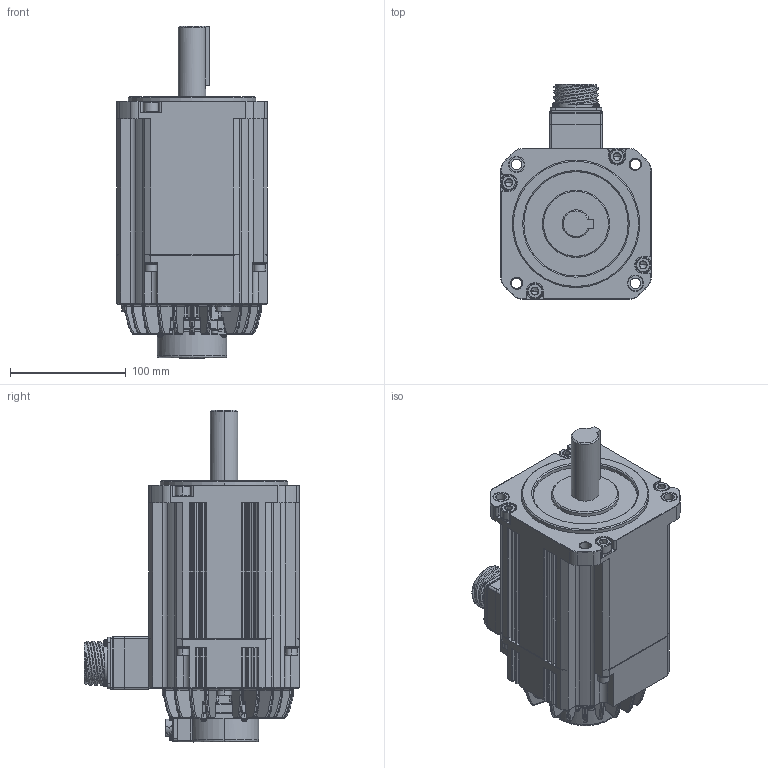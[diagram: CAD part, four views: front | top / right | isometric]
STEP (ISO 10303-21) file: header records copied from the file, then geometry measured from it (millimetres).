
FILE_DESCRIPTION (( 'STEP AP203' ), '1' );
FILE_NAME ('TSM3510N7373E722•Ð-1.STEP', '2018-06-29T03:37:43', ( '' ), ( '' ), 'SwSTEP 2.0', 'SolidWorks 2017', '' );
FILE_SCHEMA (( 'CONFIG_CONTROL_DESIGN' ));
Products named in the file (1): TSM3510N7373E722•Ð-1
Bounding box: 130.5 x 185.7 x 286.5 mm (x, y, z)
Surface area: 194475.7 mm2 (no closed solid volume)
Topology: 0 solids, 13 shells, 3122 faces, 7829 edges, 4729 vertices
Faces by surface type: bspline 1091, plane 1037, cylinder 772, cone 222
Entity records: 152740 total; most frequent: CARTESIAN_POINT 86641, ORIENTED_EDGE 15406, DIRECTION 11277, EDGE_CURVE 7724, VERTEX_POINT 4729, AXIS2_PLACEMENT_3D 3836, LINE 3605, VECTOR 3605
